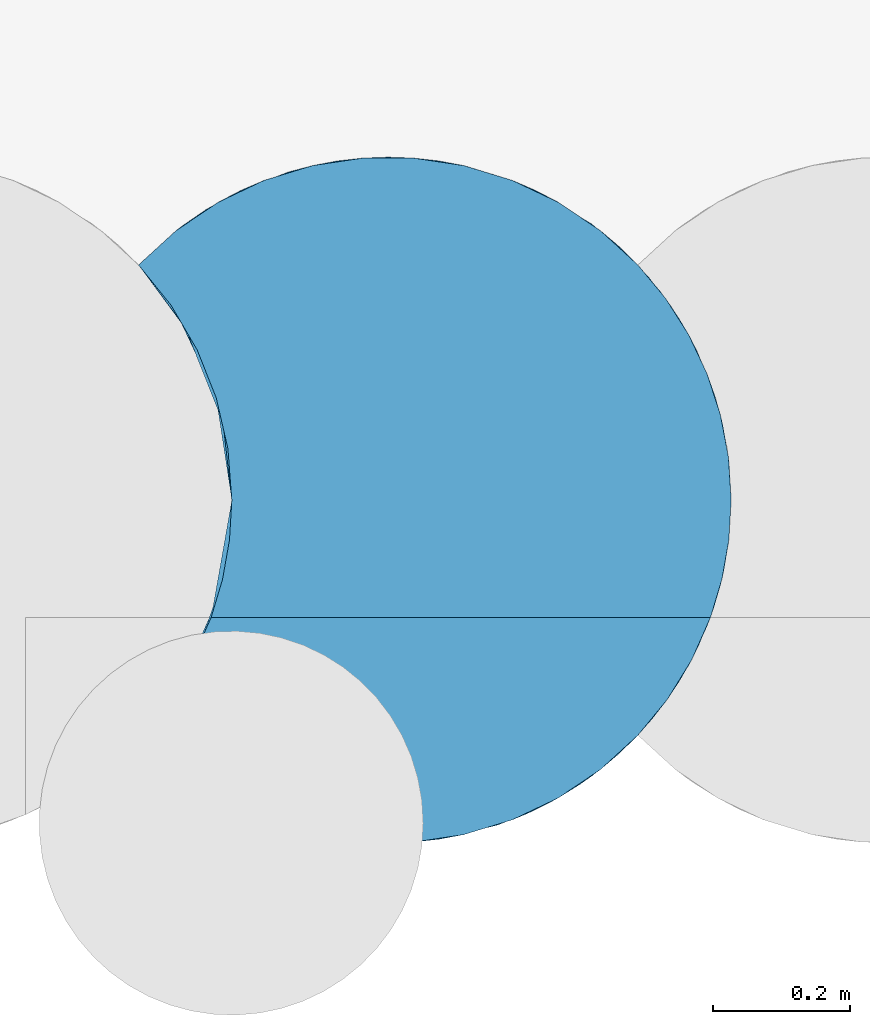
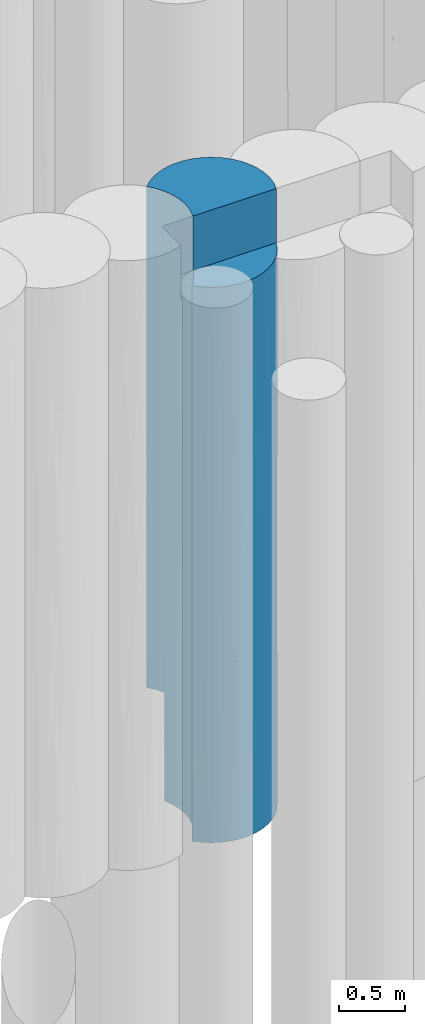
# One storey, part 40 of 104: 1 pile.
"""IFC2X3 building model written with IfcOpenShell, lengths in millimetres."""

from ifc_helpers import new_model, entity, si_unit, converted_unit, derived_unit, direction, frame, origin, place, context, subcontext, project, spatial, faceted_brep, source, transform, mapped, material, element, save


model = new_model("IFC2X3")

# Units and contexts
model_context = context("Model", 3, precision=0.01, world=origin(), true_north=direction((6.12303176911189e-17, 1.0)))
body_context = subcontext(model_context, "Body", "Model", "MODEL_VIEW")
ifc_project = project(units=[si_unit("LENGTHUNIT", "METRE", prefix="MILLI"), si_unit("AREAUNIT", "SQUARE_METRE", prefix="MILLI"), si_unit("VOLUMEUNIT", "CUBIC_METRE"), converted_unit("PLANEANGLEUNIT", "DEGREE", entity("IfcRatioMeasure", 0.0174532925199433), si_unit("PLANEANGLEUNIT", "RADIAN"), dimensions=[0, 0, 0, 0, 0, 0, 0]), si_unit("MASSUNIT", "GRAM", prefix="KILO"), derived_unit("MASSDENSITYUNIT", [(si_unit("MASSUNIT", "GRAM", prefix="KILO"), 1), (si_unit("LENGTHUNIT", "METRE"), -3)]), derived_unit("MOMENTOFINERTIAUNIT", [(si_unit("LENGTHUNIT", "METRE"), 4)]), si_unit("TIMEUNIT", "SECOND"), si_unit("FREQUENCYUNIT", "HERTZ"), si_unit("THERMODYNAMICTEMPERATUREUNIT", "DEGREE_CELSIUS"), derived_unit("THERMALTRANSMITTANCEUNIT", [(si_unit("MASSUNIT", "GRAM", prefix="KILO"), 1), (si_unit("THERMODYNAMICTEMPERATUREUNIT", "KELVIN"), -1), (si_unit("TIMEUNIT", "SECOND"), -3)]), derived_unit("VOLUMETRICFLOWRATEUNIT", [(si_unit("LENGTHUNIT", "METRE"), 3), (si_unit("TIMEUNIT", "SECOND"), -1)]), si_unit("ELECTRICCURRENTUNIT", "AMPERE"), si_unit("ELECTRICVOLTAGEUNIT", "VOLT"), si_unit("POWERUNIT", "WATT"), si_unit("FORCEUNIT", "NEWTON", prefix="KILO"), si_unit("ILLUMINANCEUNIT", "LUX"), si_unit("LUMINOUSFLUXUNIT", "LUMEN"), si_unit("LUMINOUSINTENSITYUNIT", "CANDELA"), derived_unit("USERDEFINED", [(si_unit("MASSUNIT", "GRAM", prefix="KILO"), -1), (si_unit("LENGTHUNIT", "METRE"), -2), (si_unit("TIMEUNIT", "SECOND"), 3), (si_unit("LUMINOUSFLUXUNIT", "LUMEN"), 1)]), derived_unit("LINEARVELOCITYUNIT", [(si_unit("LENGTHUNIT", "METRE"), 1), (si_unit("TIMEUNIT", "SECOND"), -1)]), si_unit("PRESSUREUNIT", "PASCAL"), derived_unit("USERDEFINED", [(si_unit("LENGTHUNIT", "METRE"), -2), (si_unit("MASSUNIT", "GRAM", prefix="KILO"), 1), (si_unit("TIMEUNIT", "SECOND"), -2)]), derived_unit("LINEARFORCEUNIT", [(si_unit("MASSUNIT", "GRAM", prefix="KILO"), 1), (si_unit("LENGTHUNIT", "METRE"), 1), (si_unit("TIMEUNIT", "SECOND"), -2), (si_unit("LENGTHUNIT", "METRE"), -1)]), derived_unit("PLANARFORCEUNIT", [(si_unit("MASSUNIT", "GRAM", prefix="KILO"), 1), (si_unit("LENGTHUNIT", "METRE"), 1), (si_unit("TIMEUNIT", "SECOND"), -2), (si_unit("LENGTHUNIT", "METRE"), -2)])], contexts=[model_context])

# Site, building, storey
site_placement = place(None, origin())
site = spatial("IfcSite", under=ifc_project, at=site_placement, Name="Theater aan de Parade", CompositionType="ELEMENT")
building_placement = place(site_placement, origin())
building = spatial("IfcBuilding", under=site, at=building_placement, Name="Theater aan de Parade", CompositionType="ELEMENT")
storey_placement = place(building_placement, frame((0.0, 0.0, -5520.0)))
storey = spatial("IfcBuildingStorey", under=building, at=storey_placement, Name="-2 kelder", CompositionType="ELEMENT", Elevation=-5520.0)

# Pile
ifc_material = material(Name="00_PBT_MAT_grout")
shared_shape = source(origin(), body_context, "Body", "Brep", [
    faceted_brep([(852.778565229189, 612.70632621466, 0.0), (862.377155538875, 556.860359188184, 0.0), (865.595272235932, 500.223265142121, 0.0), (861.634305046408, 437.411817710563, 0.0), (849.822713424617, 375.628782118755, 0.0), (830.347523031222, 315.817881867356, 0.0), (803.517959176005, 258.927346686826, 0.0), (769.755868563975, 205.852389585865, 0.0), (729.594749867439, 157.434638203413, 0.0), (674.963193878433, 107.423711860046, 0.0), (613.550146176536, 66.0362311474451, 0.0), (546.698111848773, 34.1741674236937, 0.0), (475.87354790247, 12.5361708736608, 0.0), (402.629961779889, 1.59671974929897, 0.0), (328.573875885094, 1.5957325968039, 0.0), (255.329632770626, 12.5333136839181, 0.0), (184.503810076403, 34.1697463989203, 0.0), (117.650023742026, 66.0307344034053, 0.0), (56.2348577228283, 107.417799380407, 0.0), (1.59527223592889, 157.434700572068, 0.0), (49.0404771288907, 216.123206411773, 0.0), (87.1123213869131, 281.283952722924, 0.0), (114.94346928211, 351.432476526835, 0.0), (131.899884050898, 424.970685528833, 0.0), (137.595272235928, 500.223265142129, 0.0), (134.377353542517, 556.858622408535, 0.0), (124.780071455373, 612.699802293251, 0.0), (108.920050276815, 667.115306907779, 0.0), (86.9917285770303, 719.410000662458, 0.0), (814.991728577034, 719.410000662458, 0.0), (836.917925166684, 667.121308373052, 0.0), (854.020876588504, 607.18320630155, 1094.02741643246), (814.991728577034, 719.410000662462, 1000.0), (841.026602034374, 655.029759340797, 4762.58295011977), (803.517959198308, 741.519183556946, 5620.0), (830.347522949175, 684.628648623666, 5620.0), (865.595272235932, 500.223265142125, 2810.0), (865.595272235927, 500.223265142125, 1561.53772500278), (851.88865757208, 616.493396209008, 2185.76883482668), (703.21017069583, 869.026980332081, 2200.60581933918), (746.362503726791, 824.285474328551, 3310.00690634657), (803.401066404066, 741.731208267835, 2328.0665543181), (841.026601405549, 655.029761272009, 3857.71264231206), (865.595272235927, 500.223265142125, 4215.0), (865.595272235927, 500.223265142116, 4058.46229407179), (476.57115954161, 987.752087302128, 4283.64346164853), (580.714838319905, 951.580742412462, 4088.4526938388), (439.453512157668, 994.738138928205, 3309.99801466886), (1.59527223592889, 843.011829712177, 5620.0), (56.2348580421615, 893.028731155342, 5620.0), (63.7853417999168, 898.859397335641, 4676.6115776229), (674.970941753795, 893.016716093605, 1000.0), (729.595272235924, 843.011829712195, 1000.0), (769.755868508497, 794.594140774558, 5620.0), (787.472388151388, 768.588126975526, 4395.38615293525), (328.567290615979, 998.850308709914, 1000.0), (291.740779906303, 994.738698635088, 2360.44460435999), (439.45351254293, 994.738138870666, 2129.89388414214), (580.720158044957, 951.578206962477, 2525.4490579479), (613.55661066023, 934.406607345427, 1000.0), (729.584965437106, 843.022773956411, 5620.0), (861.634305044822, 563.034712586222, 5620.0), (150.473767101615, 951.579818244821, 2319.63983707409), (117.637172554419, 934.408456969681, 1000.0), (65.201743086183, 899.927815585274, 1974.73221121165), (841.063509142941, 654.916366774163, 2981.48445914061), (865.595272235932, 500.223265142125, 5620.0), (849.822713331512, 624.817748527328, 5620.0), (790.702617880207, 763.4413205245, 1000.0), (762.167438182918, 804.740123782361, 1000.0), (100.386739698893, 924.09168136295, 3418.67983370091), (1.59527223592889, 843.011829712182, 2561.54740111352), (1.59527223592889, 843.011829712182, 4123.08022018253), (806.389759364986, 736.232205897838, 3307.45861235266), (699.528820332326, 872.363541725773, 4401.38648641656), (546.70215830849, 966.27079041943, 1000.0), (475.874328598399, 987.910182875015, 1000.0), (56.2225002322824, 893.018998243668, 1000.0), (674.963193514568, 893.022818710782, 5620.0), (328.123378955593, 998.817145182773, 3417.58259392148), (402.627039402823, 998.850027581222, 1000.0), (613.550145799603, 934.410299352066, 5620.0), (184.491893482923, 966.27215335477, 1000.0), (255.319907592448, 987.91101765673, 1000.0), (219.515588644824, 978.40808928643, 3586.41160869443), (256.001465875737, 988.064630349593, 4554.8245243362), (1.59527223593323, 843.011829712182, 1000.0), (150.486217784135, 951.585752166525, 4517.65925043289), (661.854395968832, 903.001779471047, 3156.01166058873), (117.650024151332, 934.415796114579, 5620.0), (365.601936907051, 1000.22326509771, 4389.69419363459), (546.698111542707, 966.272362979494, 5620.0), (402.629961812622, 998.849810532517, 5620.0), (475.873547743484, 987.910359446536, 5620.0), (328.573876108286, 998.850797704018, 5620.0), (184.503810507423, 966.27678405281, 5620.0), (255.329633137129, 987.913216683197, 5620.0), (291.748976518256, 5.70660757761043, 774.083371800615), (841.02660261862, 345.416772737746, 1010.02142290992), (150.485100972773, 48.8613103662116, 4145.26387772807), (117.647092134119, 66.0324085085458, 5120.0), (56.2290073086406, 107.422407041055, 5120.0), (83.0034215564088, 87.7407249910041, 829.33733110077), (150.486217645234, 48.8607781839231, 1346.89053402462), (854.35254877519, 394.789282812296, 1949.2392874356), (439.454566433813, 5.70854881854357, 1257.34655795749), (291.748976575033, 5.70660756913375, 1619.7666049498), (439.454566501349, 5.70854882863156, 2559.99549723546), (255.333613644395, 12.5324136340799, 5120.0), (291.754069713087, 5.70584703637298, 3682.99093091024), (674.965752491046, 107.425727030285, 5120.0), (613.554899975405, 66.0389459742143, 5120.0), (580.720441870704, 48.8684585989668, 4345.93269797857), (439.461962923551, 5.70965359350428, 3862.64899357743), (525.805556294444, 26.5855714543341, 2832.72157236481), (402.637309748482, 1.59726556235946, 5120.0), (328.580076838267, 1.5952722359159, 5120.0), (703.207735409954, 131.417320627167, 3862.65422213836), (703.20098996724, 131.411145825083, 2559.99800972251), (776.029130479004, 214.664080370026, 2555.84058496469), (645.023985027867, 85.5913868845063, 917.282261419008), (817.828225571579, 286.950304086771, 1887.10515667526), (750.432965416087, 181.005549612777, 1275.95542338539), (802.833968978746, 257.690129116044, 1058.63057474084), (566.941456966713, 42.5555757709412, 803.350051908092), (862.218512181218, 442.211563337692, 5620.0), (855.316098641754, 399.359435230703, 4389.58676485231), (72.0920556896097, 95.4321314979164, 1704.53868026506), (150.48510099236, 48.8613103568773, 3112.74112823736), (77.788723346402, 91.3621757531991, 3629.00250283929), (848.815628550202, 371.778384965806, 3434.2311469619), (1.59527223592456, 157.434700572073, 3558.44973090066), (1.59527223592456, 157.434700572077, 5120.0), (184.504650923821, 34.1694196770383, 5120.0), (791.318947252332, 238.00321913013, 3541.50213652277), (475.880949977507, 12.5378447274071, 5120.0), (580.720441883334, 48.8684586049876, 3500.26643421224), (852.146979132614, 385.038906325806, 5620.0), (835.513167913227, 329.41000066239, 5120.0), (580.714839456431, 48.86578841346, 1619.7615525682), (1.59527223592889, 157.434700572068, 780.766076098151), (347.341985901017, 0.556558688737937, 2917.90397660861), (252.352925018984, 13.2159029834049, 2651.38722215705), (141.555113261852, 53.2266128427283, 2229.815243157), (663.073769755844, 98.3444979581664, 1795.62758556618), (67.5321613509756, 98.7778990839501, 2615.12834831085), (772.580322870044, 209.769880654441, 5120.0), (729.595272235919, 157.434700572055, 5120.0), (546.704578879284, 34.176680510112, 5120.0), (808.102210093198, 267.440942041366, 5120.0), (835.513167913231, 329.410000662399, 5620.0), (607.099132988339, 62.4152190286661, 2560.0057283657), (1.59527223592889, 157.434700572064, 2777.69344056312), (1.59527223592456, 157.434700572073, 1996.91757870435), (114.943469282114, 649.014053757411, 5620.0), (131.899884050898, 575.475844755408, 5620.0), (137.595272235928, 500.223265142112, 5620.0), (134.218459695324, 442.21111402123, 5620.0), (124.147439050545, 385.040849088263, 5620.0), (107.513167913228, 329.410000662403, 5620.0), (49.040477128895, 784.323323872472, 5620.0), (87.1123213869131, 719.162577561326, 5620.0), (137.595272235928, 500.223265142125, 1561.53772533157), (137.595272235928, 500.223265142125, 2810.0), (118.129955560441, 638.376868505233, 2185.76884068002), (124.811099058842, 612.565323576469, 4657.58649590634), (137.595272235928, 500.223265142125, 4215.0), (125.973811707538, 607.397899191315, 1095.37767137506), (69.3075384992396, 752.462277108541, 4657.5864923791), (102.353272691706, 684.614157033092, 3905.98762480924), (57.7018130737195, 771.35145317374, 3773.13755671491), (86.9917285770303, 719.410000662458, 1000.0), (129.799943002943, 588.169624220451, 3749.95709791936), (48.9622639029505, 784.436562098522, 1000.0), (114.521440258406, 650.361302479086, 3074.4744607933), (73.2384738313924, 745.610715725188, 2499.015186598), (137.595272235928, 500.223265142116, 4058.46229404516), (125.144374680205, 389.336508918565, 2648.70045516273), (94.8629582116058, 297.970296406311, 3193.67103511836), (126.158348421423, 393.893022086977, 3687.84265532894), (60.1293406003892, 232.89395311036, 1836.9852363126), (65.6483038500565, 241.823183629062, 948.913262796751), (130.287474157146, 415.050533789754, 1847.36430398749), (44.5887880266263, 209.781742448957, 5120.0), (94.8629582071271, 297.970296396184, 4182.01427536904), (107.513167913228, 329.410000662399, 5120.0), (80.1120921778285, 267.459728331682, 5120.0), (102.353273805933, 315.832376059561, 1582.93816074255), (92.4691750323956, 292.642599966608, 2372.54038835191), (128.564853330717, 405.624795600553, 1015.22177140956)], [[[0, 1, 2, 3, 4, 5, 6, 7, 8, 9, 10, 11, 12, 13, 14, 15, 16, 17, 18, 19, 20, 21, 22, 23, 24, 25, 26, 27, 28, 29, 30]], [[31, 30, 32]], [[33, 34, 35]], [[36, 37, 38]], [[39, 40, 41]], [[41, 38, 32]], [[42, 33, 43, 44, 36]], [[45, 46, 47]], [[48, 49, 50]], [[51, 39, 52]], [[53, 34, 54]], [[55, 56, 57]], [[58, 39, 59]], [[47, 46, 58]], [[30, 29, 32]], [[38, 37, 31]], [[53, 54, 60]], [[43, 33, 61]], [[62, 63, 64]], [[65, 36, 38]], [[43, 61, 66]], [[2, 1, 31]], [[67, 33, 35]], [[1, 0, 31]], [[33, 54, 34]], [[68, 69, 41]], [[52, 39, 69]], [[69, 39, 41]], [[70, 71, 72]], [[73, 54, 42]], [[54, 74, 60]], [[75, 76, 57]], [[68, 41, 32]], [[64, 63, 77]], [[74, 78, 60]], [[79, 57, 56]], [[57, 76, 80]], [[40, 73, 41]], [[58, 75, 57]], [[74, 81, 78]], [[82, 62, 83]], [[54, 40, 74]], [[56, 83, 62]], [[79, 84, 85]], [[62, 82, 63]], [[38, 31, 32]], [[62, 84, 56]], [[86, 71, 64]], [[87, 84, 70]], [[39, 88, 40]], [[56, 55, 83]], [[89, 87, 50]], [[88, 39, 58]], [[90, 45, 47]], [[81, 46, 91]], [[46, 45, 91]], [[57, 80, 55]], [[84, 87, 85]], [[92, 93, 45]], [[79, 90, 47]], [[70, 84, 62]], [[92, 90, 94]], [[95, 87, 89]], [[85, 94, 90]], [[54, 33, 42]], [[33, 67, 61]], [[85, 90, 79]], [[89, 50, 49]], [[96, 85, 95]], [[58, 57, 47]], [[70, 62, 64]], [[59, 75, 58]], [[50, 70, 72]], [[59, 39, 51]], [[41, 73, 65]], [[88, 74, 40]], [[81, 74, 46]], [[95, 85, 87]], [[94, 85, 96]], [[31, 37, 2]], [[31, 0, 30]], [[58, 46, 88]], [[74, 88, 46]], [[92, 45, 90]], [[91, 45, 93]], [[57, 79, 47]], [[56, 84, 79]], [[54, 73, 40]], [[65, 73, 42]], [[36, 65, 42]], [[41, 65, 38]], [[86, 64, 77]], [[70, 64, 71]], [[70, 50, 87]], [[48, 50, 72]], [[16, 15, 97]], [[3, 98, 4]], [[99, 100, 101]], [[102, 17, 103]], [[16, 97, 103]], [[104, 98, 37]], [[13, 12, 105]], [[106, 97, 105, 107]], [[108, 99, 109]], [[110, 111, 112]], [[113, 107, 114]], [[13, 105, 97]], [[113, 115, 116]], [[117, 118, 119]], [[9, 120, 10]], [[121, 122, 123]], [[105, 12, 124]], [[66, 125, 126]], [[127, 102, 103]], [[128, 99, 129]], [[130, 121, 104]], [[109, 116, 108]], [[131, 101, 132]], [[133, 100, 99]], [[99, 108, 133]], [[98, 5, 4]], [[119, 134, 117]], [[115, 113, 135]], [[17, 16, 103]], [[112, 113, 136]], [[137, 138, 126]], [[124, 120, 139]], [[102, 140, 18]], [[8, 122, 120]], [[141, 113, 109]], [[124, 10, 120]], [[140, 19, 18]], [[5, 98, 123]], [[106, 142, 143]], [[121, 98, 104]], [[139, 107, 105]], [[3, 37, 98]], [[142, 109, 128]], [[144, 139, 120]], [[142, 141, 109]], [[122, 8, 7]], [[119, 122, 121]], [[128, 129, 145]], [[146, 147, 117]], [[123, 7, 6]], [[148, 112, 111]], [[110, 117, 147]], [[121, 123, 98]], [[138, 149, 134]], [[129, 101, 131]], [[146, 117, 134]], [[113, 116, 109]], [[125, 137, 126]], [[150, 138, 137]], [[130, 126, 134]], [[44, 130, 36]], [[114, 139, 151]], [[112, 135, 113]], [[15, 14, 97]], [[143, 128, 145]], [[149, 146, 134]], [[117, 110, 112]], [[139, 144, 151]], [[136, 151, 117]], [[12, 11, 124]], [[3, 2, 37]], [[109, 99, 128]], [[8, 120, 9]], [[144, 122, 118]], [[97, 14, 13]], [[103, 97, 106]], [[112, 148, 135]], [[117, 112, 136]], [[126, 130, 44]], [[130, 134, 119]], [[37, 36, 104]], [[130, 104, 36]], [[122, 144, 120]], [[118, 117, 151]], [[118, 151, 144]], [[114, 151, 136]], [[101, 129, 99]], [[145, 131, 152, 153]], [[131, 145, 129]], [[127, 145, 153]], [[140, 127, 153]], [[143, 127, 103]], [[140, 102, 127]], [[17, 102, 18]], [[113, 114, 136]], [[139, 114, 107]], [[127, 143, 145]], [[106, 143, 103]], [[105, 124, 139]], [[10, 124, 11]], [[7, 123, 122]], [[5, 123, 6]], [[122, 119, 118]], [[130, 119, 121]], [[143, 142, 128]], [[141, 106, 107]], [[106, 141, 142]], [[113, 141, 107]], [[126, 44, 43, 66]], [[134, 126, 138]], [[154, 155, 156, 157, 158, 159, 150, 137, 125, 66, 61, 67, 35, 34, 53, 60, 78, 81, 91, 93, 92, 94, 96, 95, 89, 49, 48, 160, 161]], [[162, 163, 164]], [[165, 154, 161]], [[156, 165, 166]], [[24, 167, 25]], [[72, 168, 48]], [[167, 26, 25]], [[167, 27, 26]], [[155, 154, 165]], [[165, 168, 169]], [[168, 72, 170]], [[167, 171, 27]], [[172, 165, 169]], [[71, 86, 173]], [[169, 174, 172]], [[48, 168, 160]], [[162, 164, 167]], [[160, 168, 161]], [[175, 71, 173]], [[166, 165, 172]], [[169, 168, 170]], [[161, 168, 165]], [[175, 174, 170]], [[175, 173, 171]], [[28, 27, 171]], [[172, 163, 176, 166]], [[155, 165, 156]], [[164, 163, 174]], [[172, 174, 163]], [[164, 174, 175]], [[164, 175, 171]], [[170, 72, 71]], [[169, 170, 174]], [[175, 170, 71]], [[171, 167, 164]], [[24, 162, 167]], [[177, 178, 179]], [[140, 180, 181]], [[181, 22, 21]], [[163, 182, 177]], [[183, 131, 132]], [[20, 140, 181]], [[177, 179, 163]], [[183, 184, 131]], [[131, 184, 178, 152]], [[185, 184, 186]], [[187, 22, 181]], [[176, 179, 185]], [[157, 176, 185]], [[188, 180, 152]], [[183, 186, 184]], [[189, 162, 24]], [[185, 158, 157]], [[159, 158, 185]], [[20, 19, 140]], [[185, 179, 184]], [[179, 176, 163]], [[157, 156, 166, 176]], [[140, 153, 152, 180]], [[189, 24, 23]], [[178, 184, 179]], [[189, 23, 22]], [[178, 177, 188]], [[182, 189, 187]], [[20, 181, 21]], [[180, 187, 181]], [[180, 188, 187]], [[187, 188, 177]], [[178, 188, 152]], [[162, 189, 182]], [[187, 189, 22]], [[162, 182, 163]], [[177, 182, 187]], [[101, 100, 133, 108, 116, 115, 135, 148, 111, 110, 147, 146, 149, 138, 185, 186, 183, 132]], [[138, 150, 159, 185]], [[83, 55, 80, 76, 75, 59, 51, 52, 69, 68, 32, 171, 173, 86, 77, 63, 82]], [[32, 29, 28, 171]]]),
])
pile_placement = place(storey_placement, frame((38128.2628578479, 37980.5899993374, -3840.0)))
element("IfcPile", 1, at=pile_placement, inside=storey, material=ifc_material, Name="17_PBT_SFO_grondkering_rond:Ø1000 (grondkering)", ObjectType="17_PBT_SFO_grondkering_rond:Ø1000 (grondkering)", PredefinedType="NOTDEFINED", context=body_context, shape_type="MappedRepresentation", body=[
    mapped(shared_shape, transform((0.0, 0.0, 0.0), scale=1.0)),
])

save(model, "model.ifc")
